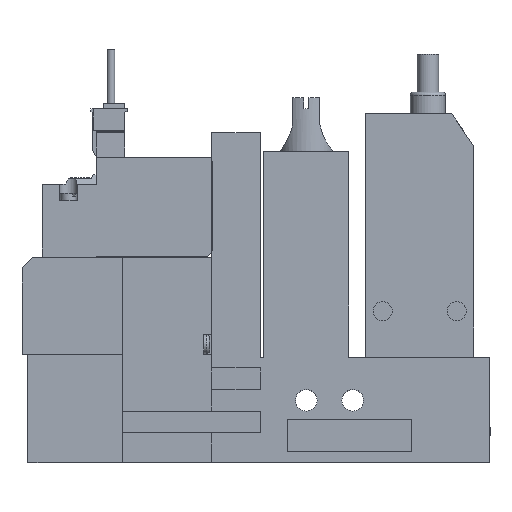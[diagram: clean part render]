
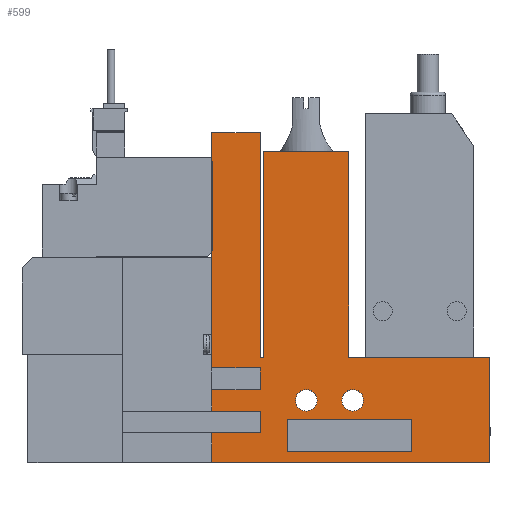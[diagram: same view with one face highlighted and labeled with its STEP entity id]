
A CAD part, top view. The second image highlights one B-rep face of the part: STEP entity #599.
In plain terms, the highlighted planar face has unit normal (0, 0, 1).
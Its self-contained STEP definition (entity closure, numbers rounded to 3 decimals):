
#599=ADVANCED_FACE('',(#1271,#1272,#1273,#1274),#1275,.T.);
#1271=FACE_OUTER_BOUND('',#2056,.T.);
#1272=FACE_BOUND('',#2057,.T.);
#1273=FACE_BOUND('',#2058,.T.);
#1274=FACE_BOUND('',#2059,.T.);
#1275=PLANE('',#2060);
#2056=EDGE_LOOP('',(#4509,#4510,#4511,#4512,#4513,#4514,#4515,#4516,#4517,#4518,#4519,#4520,#4521,#4522,#4523,#4524,#4525,#4526));
#2057=EDGE_LOOP('',(#4527,#4528,#4529,#4530));
#2058=EDGE_LOOP('',(#4531));
#2059=EDGE_LOOP('',(#4532));
#2060=AXIS2_PLACEMENT_3D('',#4533,#4534,#4535);
#4509=ORIENTED_EDGE('',*,*,#5845,.T.);
#4510=ORIENTED_EDGE('',*,*,#5905,.T.);
#4511=ORIENTED_EDGE('',*,*,#5906,.T.);
#4512=ORIENTED_EDGE('',*,*,#5907,.T.);
#4513=ORIENTED_EDGE('',*,*,#5908,.T.);
#4514=ORIENTED_EDGE('',*,*,#5858,.T.);
#4515=ORIENTED_EDGE('',*,*,#5909,.T.);
#4516=ORIENTED_EDGE('',*,*,#5910,.T.);
#4517=ORIENTED_EDGE('',*,*,#5911,.T.);
#4518=ORIENTED_EDGE('',*,*,#5912,.T.);
#4519=ORIENTED_EDGE('',*,*,#5913,.T.);
#4520=ORIENTED_EDGE('',*,*,#5899,.T.);
#4521=ORIENTED_EDGE('',*,*,#5914,.T.);
#4522=ORIENTED_EDGE('',*,*,#5915,.T.);
#4523=ORIENTED_EDGE('',*,*,#5916,.T.);
#4524=ORIENTED_EDGE('',*,*,#5917,.T.);
#4525=ORIENTED_EDGE('',*,*,#5918,.T.);
#4526=ORIENTED_EDGE('',*,*,#5919,.T.);
#4527=ORIENTED_EDGE('',*,*,#5920,.T.);
#4528=ORIENTED_EDGE('',*,*,#5921,.T.);
#4529=ORIENTED_EDGE('',*,*,#5922,.T.);
#4530=ORIENTED_EDGE('',*,*,#5853,.T.);
#4531=ORIENTED_EDGE('',*,*,#5923,.T.);
#4532=ORIENTED_EDGE('',*,*,#5924,.T.);
#4533=CARTESIAN_POINT('',(0.0,0.0,10.0));
#4534=DIRECTION('',(0.0,0.0,1.0));
#4535=DIRECTION('',(1.0,0.0,0.0));
#5845=EDGE_CURVE('',#7236,#7234,#7237,.T.);
#5853=EDGE_CURVE('',#7244,#7249,#7251,.T.);
#5858=EDGE_CURVE('',#7259,#7260,#7261,.T.);
#5899=EDGE_CURVE('',#7330,#7328,#7331,.T.);
#5905=EDGE_CURVE('',#7234,#7339,#7340,.T.);
#5906=EDGE_CURVE('',#7339,#7341,#7342,.T.);
#5907=EDGE_CURVE('',#7341,#7343,#7344,.T.);
#5908=EDGE_CURVE('',#7343,#7259,#7345,.T.);
#5909=EDGE_CURVE('',#7260,#7346,#7347,.T.);
#5910=EDGE_CURVE('',#7346,#7348,#7349,.T.);
#5911=EDGE_CURVE('',#7348,#7350,#7351,.T.);
#5912=EDGE_CURVE('',#7350,#7352,#7353,.T.);
#5913=EDGE_CURVE('',#7352,#7330,#7354,.T.);
#5914=EDGE_CURVE('',#7328,#7355,#7356,.T.);
#5915=EDGE_CURVE('',#7355,#7357,#7358,.T.);
#5916=EDGE_CURVE('',#7357,#7359,#7360,.T.);
#5917=EDGE_CURVE('',#7359,#7361,#7362,.T.);
#5918=EDGE_CURVE('',#7361,#7363,#7364,.T.);
#5919=EDGE_CURVE('',#7363,#7236,#7365,.T.);
#5920=EDGE_CURVE('',#7249,#7366,#7367,.T.);
#5921=EDGE_CURVE('',#7366,#7368,#7369,.T.);
#5922=EDGE_CURVE('',#7368,#7244,#7370,.T.);
#5923=EDGE_CURVE('',#7371,#7371,#7372,.T.);
#5924=EDGE_CURVE('',#7373,#7373,#7374,.T.);
#7234=VERTEX_POINT('',#9436);
#7236=VERTEX_POINT('',#9439);
#7237=LINE('',#9440,#9441);
#7244=VERTEX_POINT('',#9452);
#7249=VERTEX_POINT('',#9459);
#7251=LINE('',#9462,#9463);
#7259=VERTEX_POINT('',#9473);
#7260=VERTEX_POINT('',#9474);
#7261=LINE('',#9475,#9476);
#7328=VERTEX_POINT('',#9580);
#7330=VERTEX_POINT('',#9583);
#7331=LINE('',#9584,#9585);
#7339=VERTEX_POINT('',#9598);
#7340=LINE('',#9599,#9600);
#7341=VERTEX_POINT('',#9601);
#7342=LINE('',#9602,#9603);
#7343=VERTEX_POINT('',#9604);
#7344=LINE('',#9605,#9606);
#7345=LINE('',#9607,#9608);
#7346=VERTEX_POINT('',#9609);
#7347=LINE('',#9610,#9611);
#7348=VERTEX_POINT('',#9612);
#7349=LINE('',#9613,#9614);
#7350=VERTEX_POINT('',#9615);
#7351=LINE('',#9616,#9617);
#7352=VERTEX_POINT('',#9618);
#7353=LINE('',#9619,#9620);
#7354=LINE('',#9621,#9622);
#7355=VERTEX_POINT('',#9623);
#7356=LINE('',#9624,#9625);
#7357=VERTEX_POINT('',#9626);
#7358=LINE('',#9627,#9628);
#7359=VERTEX_POINT('',#9629);
#7360=LINE('',#9630,#9631);
#7361=VERTEX_POINT('',#9632);
#7362=LINE('',#9633,#9634);
#7363=VERTEX_POINT('',#9635);
#7364=LINE('',#9636,#9637);
#7365=LINE('',#9638,#9639);
#7366=VERTEX_POINT('',#9640);
#7367=LINE('',#9641,#9642);
#7368=VERTEX_POINT('',#9643);
#7369=LINE('',#9644,#9645);
#7370=LINE('',#9646,#9647);
#7371=VERTEX_POINT('',#9648);
#7372=CIRCLE('',#9649,2.0);
#7373=VERTEX_POINT('',#9650);
#7374=CIRCLE('',#9651,2.0);
#9436=CARTESIAN_POINT('',(35.1,17.5,10.0));
#9439=CARTESIAN_POINT('',(35.1,61.0,10.0));
#9440=CARTESIAN_POINT('',(35.1,61.0,10.0));
#9441=VECTOR('',#10860,1.0);
#9452=CARTESIAN_POINT('',(72.1,2.0,10.0));
#9459=CARTESIAN_POINT('',(49.1,2.0,10.0));
#9462=CARTESIAN_POINT('',(0.0,2.0,10.0));
#9463=VECTOR('',#10868,1.0);
#9473=CARTESIAN_POINT('',(35.1,9.5,10.0));
#9474=CARTESIAN_POINT('',(44.1,9.5,10.0));
#9475=CARTESIAN_POINT('',(0.0,9.5,10.0));
#9476=VECTOR('',#10877,1.0);
#9580=CARTESIAN_POINT('',(60.45,19.5,10.0));
#9583=CARTESIAN_POINT('',(86.6,19.5,10.0));
#9584=CARTESIAN_POINT('',(86.6,19.5,10.0));
#9585=VECTOR('',#10922,1.0);
#9598=CARTESIAN_POINT('',(44.1,17.5,10.0));
#9599=CARTESIAN_POINT('',(0.0,17.5,10.0));
#9600=VECTOR('',#10928,1.0);
#9601=CARTESIAN_POINT('',(44.1,13.5,10.0));
#9602=CARTESIAN_POINT('',(44.1,0.0,10.0));
#9603=VECTOR('',#10929,1.0);
#9604=CARTESIAN_POINT('',(35.1,13.5,10.0));
#9605=CARTESIAN_POINT('',(0.0,13.5,10.0));
#9606=VECTOR('',#10930,1.0);
#9607=CARTESIAN_POINT('',(35.1,0.0,10.0));
#9608=VECTOR('',#10931,1.0);
#9609=CARTESIAN_POINT('',(44.1,5.5,10.0));
#9610=CARTESIAN_POINT('',(44.1,0.0,10.0));
#9611=VECTOR('',#10932,1.0);
#9612=CARTESIAN_POINT('',(35.1,5.5,10.0));
#9613=CARTESIAN_POINT('',(0.0,5.5,10.0));
#9614=VECTOR('',#10933,1.0);
#9615=CARTESIAN_POINT('',(35.1,0.0,10.0));
#9616=CARTESIAN_POINT('',(35.1,0.0,10.0));
#9617=VECTOR('',#10934,1.0);
#9618=CARTESIAN_POINT('',(86.6,0.0,10.0));
#9619=CARTESIAN_POINT('',(18.6,0.0,10.0));
#9620=VECTOR('',#10935,1.0);
#9621=CARTESIAN_POINT('',(86.6,0.0,10.0));
#9622=VECTOR('',#10936,1.0);
#9623=CARTESIAN_POINT('',(60.45,57.5,10.0));
#9624=CARTESIAN_POINT('',(60.45,19.5,10.0));
#9625=VECTOR('',#10937,1.0);
#9626=CARTESIAN_POINT('',(44.75,57.5,10.0));
#9627=CARTESIAN_POINT('',(60.45,57.5,10.0));
#9628=VECTOR('',#10938,1.0);
#9629=CARTESIAN_POINT('',(44.75,19.5,10.0));
#9630=CARTESIAN_POINT('',(44.75,57.5,10.0));
#9631=VECTOR('',#10939,1.0);
#9632=CARTESIAN_POINT('',(44.1,19.5,10.0));
#9633=CARTESIAN_POINT('',(44.75,19.5,10.0));
#9634=VECTOR('',#10940,1.0);
#9635=CARTESIAN_POINT('',(44.1,61.0,10.0));
#9636=CARTESIAN_POINT('',(44.1,19.5,10.0));
#9637=VECTOR('',#10941,1.0);
#9638=CARTESIAN_POINT('',(44.1,61.0,10.0));
#9639=VECTOR('',#10942,1.0);
#9640=CARTESIAN_POINT('',(49.1,8.0,10.0));
#9641=CARTESIAN_POINT('',(49.1,0.0,10.0));
#9642=VECTOR('',#10943,1.0);
#9643=CARTESIAN_POINT('',(72.1,8.0,10.0));
#9644=CARTESIAN_POINT('',(0.0,8.0,10.0));
#9645=VECTOR('',#10944,1.0);
#9646=CARTESIAN_POINT('',(72.1,0.0,10.0));
#9647=VECTOR('',#10945,1.0);
#9648=CARTESIAN_POINT('',(54.6,11.5,10.0));
#9649=AXIS2_PLACEMENT_3D('',#10946,#10947,#10948);
#9650=CARTESIAN_POINT('',(63.2,11.5,10.0));
#9651=AXIS2_PLACEMENT_3D('',#10949,#10950,#10951);
#10860=DIRECTION('',(0.0,-1.0,0.0));
#10868=DIRECTION('',(-1.0,0.0,0.0));
#10877=DIRECTION('',(1.0,0.0,0.0));
#10922=DIRECTION('',(-1.0,0.0,0.0));
#10928=DIRECTION('',(1.0,0.0,0.0));
#10929=DIRECTION('',(0.0,-1.0,0.0));
#10930=DIRECTION('',(-1.0,0.0,0.0));
#10931=DIRECTION('',(0.0,-1.0,0.0));
#10932=DIRECTION('',(0.0,-1.0,0.0));
#10933=DIRECTION('',(-1.0,0.0,0.0));
#10934=DIRECTION('',(0.0,-1.0,0.0));
#10935=DIRECTION('',(1.0,0.0,0.0));
#10936=DIRECTION('',(0.0,1.0,0.0));
#10937=DIRECTION('',(0.0,1.0,0.0));
#10938=DIRECTION('',(-1.0,0.0,0.0));
#10939=DIRECTION('',(0.0,-1.0,0.0));
#10940=DIRECTION('',(-1.0,0.0,0.0));
#10941=DIRECTION('',(0.0,1.0,0.0));
#10942=DIRECTION('',(-1.0,0.0,0.0));
#10943=DIRECTION('',(0.0,1.0,0.0));
#10944=DIRECTION('',(1.0,0.0,0.0));
#10945=DIRECTION('',(0.0,-1.0,0.0));
#10946=CARTESIAN_POINT('',(52.6,11.5,10.0));
#10947=DIRECTION('',(0.0,0.0,-1.0));
#10948=DIRECTION('',(1.0,0.0,0.0));
#10949=CARTESIAN_POINT('',(61.2,11.5,10.0));
#10950=DIRECTION('',(0.0,0.0,-1.0));
#10951=DIRECTION('',(1.0,0.0,0.0));
